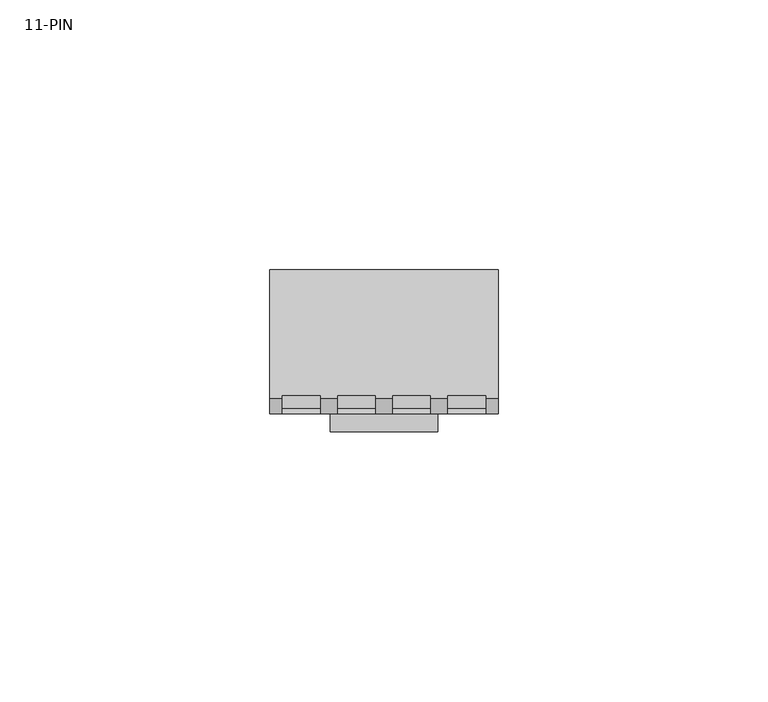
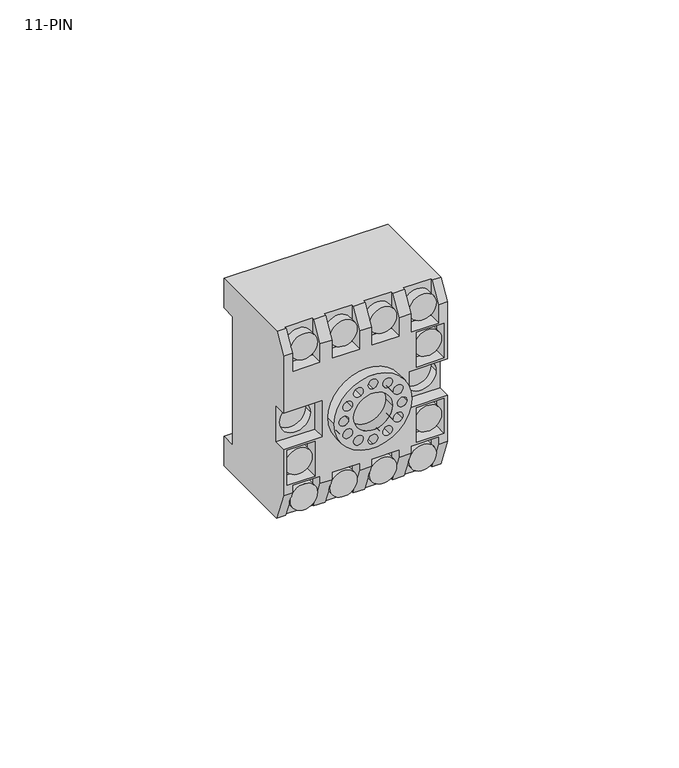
"""IFC4 building model written with IfcOpenShell, lengths in millimetres: proxy geometry, TDM_ЦОКОЛЬНЫЙ РАЗЪЕМ Р11Ц : 11-PIN."""

from ifc_helpers import new_model, si_unit, point, frame, frame_2d, origin, origin_2d, place, context, project, spatial, polyline, circle_curve, trimmed, segment, composite_curve, outline, extrude, source, transform, mapped, element, save
from ifc_brep_helpers import plane_surface, revolved_surface, advanced_brep


def proxy_11_pin_c977f3df(model_context):
    return source(origin(), model_context, "Body", "SolidModel", [
        extrude(outline(composite_curve([segment(trimmed(circle_curve(frame_2d((20.5, 15.3224467)), 3.5), [point((20.5, 18.8224467))], [point((20.5, 11.8224467))], False, "CARTESIAN"), True, "CONTINUOUS"), segment(trimmed(circle_curve(frame_2d((20.5, 15.3224467)), 3.5), [point((20.5, 11.8224467))], [point((20.5, 18.8224467))], False, "CARTESIAN"), True, "CONTINUOUS")], self_intersect=False)), frame((0.0, -15.667737, 0.0), z_axis=(0.0, 1.0, 0.0), x_axis=(0.0, 0.0, 1.0)), (0.0, 0.0, 1.0), 2.4687478),
        extrude(outline(composite_curve([segment(trimmed(circle_curve(frame_2d((20.5, 5.094818)), 3.5), [point((20.5, 8.594818))], [point((20.5, 1.594818))], False, "CARTESIAN"), True, "CONTINUOUS"), segment(trimmed(circle_curve(frame_2d((20.5, 5.094818)), 3.5), [point((20.5, 1.594818))], [point((20.5, 8.594818))], False, "CARTESIAN"), True, "CONTINUOUS")], self_intersect=False)), frame((0.0, -15.667737, 0.0), z_axis=(0.0, 1.0, 0.0), x_axis=(0.0, 0.0, 1.0)), (0.0, 0.0, 1.0), 2.4687478),
        extrude(outline(composite_curve([segment(trimmed(circle_curve(frame_2d((20.5, -15.3224467)), 3.5), [point((20.5, -18.8224467))], [point((20.5, -11.8224467))], False, "CARTESIAN"), True, "CONTINUOUS"), segment(trimmed(circle_curve(frame_2d((20.5, -15.3224467)), 3.5), [point((20.5, -11.8224467))], [point((20.5, -18.8224467))], False, "CARTESIAN"), True, "CONTINUOUS")], self_intersect=False)), frame((0.0, -15.667737, 0.0), z_axis=(0.0, 1.0, 0.0), x_axis=(0.0, 0.0, 1.0)), (0.0, 0.0, 1.0), 2.4687478),
        extrude(outline(composite_curve([segment(trimmed(circle_curve(frame_2d((20.5, -5.094818)), 3.5), [point((20.5, -8.594818))], [point((20.5, -1.594818))], False, "CARTESIAN"), True, "CONTINUOUS"), segment(trimmed(circle_curve(frame_2d((20.5, -5.094818)), 3.5), [point((20.5, -1.594818))], [point((20.5, -8.594818))], False, "CARTESIAN"), True, "CONTINUOUS")], self_intersect=False)), frame((0.0, -15.667737, 0.0), z_axis=(0.0, 1.0, 0.0), x_axis=(0.0, 0.0, 1.0)), (0.0, 0.0, 1.0), 2.4687478),
        extrude(outline(composite_curve([segment(trimmed(circle_curve(frame_2d((-20.5, 15.3224467)), 3.5), [point((-20.5, 18.8224467))], [point((-20.5, 11.8224467))], False, "CARTESIAN"), True, "CONTINUOUS"), segment(trimmed(circle_curve(frame_2d((-20.5, 15.3224467)), 3.5), [point((-20.5, 11.8224467))], [point((-20.5, 18.8224467))], False, "CARTESIAN"), True, "CONTINUOUS")], self_intersect=False)), frame((0.0, -15.667737, 0.0), z_axis=(0.0, 1.0, 0.0), x_axis=(0.0, 0.0, 1.0)), (0.0, 0.0, 1.0), 2.4687478),
        extrude(outline(composite_curve([segment(trimmed(circle_curve(frame_2d((-20.5, 5.094818)), 3.5), [point((-20.5, 8.594818))], [point((-20.5, 1.594818))], False, "CARTESIAN"), True, "CONTINUOUS"), segment(trimmed(circle_curve(frame_2d((-20.5, 5.094818)), 3.5), [point((-20.5, 1.594818))], [point((-20.5, 8.594818))], False, "CARTESIAN"), True, "CONTINUOUS")], self_intersect=False)), frame((0.0, -15.667737, 0.0), z_axis=(0.0, 1.0, 0.0), x_axis=(0.0, 0.0, 1.0)), (0.0, 0.0, 1.0), 2.4687478),
        extrude(outline(composite_curve([segment(trimmed(circle_curve(frame_2d((-20.5, -15.3224467)), 3.5), [point((-20.5, -18.8224467))], [point((-20.5, -11.8224467))], False, "CARTESIAN"), True, "CONTINUOUS"), segment(trimmed(circle_curve(frame_2d((-20.5, -15.3224467)), 3.5), [point((-20.5, -11.8224467))], [point((-20.5, -18.8224467))], False, "CARTESIAN"), True, "CONTINUOUS")], self_intersect=False)), frame((0.0, -15.667737, 0.0), z_axis=(0.0, 1.0, 0.0), x_axis=(0.0, 0.0, 1.0)), (0.0, 0.0, 1.0), 2.4687478),
        extrude(outline(composite_curve([segment(trimmed(circle_curve(frame_2d((-20.5, -5.094818)), 3.5), [point((-20.5, -8.594818))], [point((-20.5, -1.594818))], False, "CARTESIAN"), True, "CONTINUOUS"), segment(trimmed(circle_curve(frame_2d((-20.5, -5.094818)), 3.5), [point((-20.5, -1.594818))], [point((-20.5, -8.594818))], False, "CARTESIAN"), True, "CONTINUOUS")], self_intersect=False)), frame((0.0, -15.667737, 0.0), z_axis=(0.0, 1.0, 0.0), x_axis=(0.0, 0.0, 1.0)), (0.0, 0.0, 1.0), 2.4687478),
        extrude(outline(composite_curve([segment(trimmed(circle_curve(frame_2d((-10.2918299, 16.6749858)), 3.5), [point((-10.2918299, 20.1749858))], [point((-10.2918299, 13.1749858))], False, "CARTESIAN"), True, "CONTINUOUS"), segment(trimmed(circle_curve(frame_2d((-10.2918299, 16.6749858)), 3.5), [point((-10.2918299, 13.1749858))], [point((-10.2918299, 20.1749858))], False, "CARTESIAN"), True, "CONTINUOUS")], self_intersect=False)), frame((0.0, -15.667737, 0.0), z_axis=(0.0, 1.0, 0.0), x_axis=(0.0, 0.0, 1.0)), (0.0, 0.0, 1.0), 2.4687478),
        extrude(outline(composite_curve([segment(trimmed(circle_curve(frame_2d((-10.2918299, -16.6749858)), 3.5), [point((-10.2918299, -20.1749858))], [point((-10.2918299, -13.1749858))], False, "CARTESIAN"), True, "CONTINUOUS"), segment(trimmed(circle_curve(frame_2d((-10.2918299, -16.6749858)), 3.5), [point((-10.2918299, -13.1749858))], [point((-10.2918299, -20.1749858))], False, "CARTESIAN"), True, "CONTINUOUS")], self_intersect=False)), frame((0.0, -15.667737, 0.0), z_axis=(0.0, 1.0, 0.0), x_axis=(0.0, 0.0, 1.0)), (0.0, 0.0, 1.0), 2.4687478),
        extrude(outline(composite_curve([segment(trimmed(circle_curve(frame_2d((10.2918299, 16.6749858)), 3.5), [point((10.2918299, 20.1749858))], [point((10.2918299, 13.1749858))], False, "CARTESIAN"), True, "CONTINUOUS"), segment(trimmed(circle_curve(frame_2d((10.2918299, 16.6749858)), 3.5), [point((10.2918299, 13.1749858))], [point((10.2918299, 20.1749858))], False, "CARTESIAN"), True, "CONTINUOUS")], self_intersect=False)), frame((0.0, -15.667737, 0.0), z_axis=(0.0, 1.0, 0.0), x_axis=(0.0, 0.0, 1.0)), (0.0, 0.0, 1.0), 2.4687478),
        extrude(outline(polyline([(-27.7075426, -6.7924574), (-27.7075426, -2.3822129), (-28.6834872, -1.4062683), (-28.6834872, 1.4062683), (-27.7075426, 2.3822129), (-27.7075426, 6.7924574), (-25.5, 9.0), (-25.5, 3.0021543), (-26.7640895, 1.7380648), (-26.7640895, -1.4251506), (-25.5, -2.6892401), (-25.5, -9.0), (-27.7075426, -6.7924574)])), frame((0.0, 6.0, 0.0), z_axis=(0.0, 1.0, 0.0), x_axis=(0.0, 0.0, 1.0)), (0.0, 0.0, 1.0), 4.0),
        advanced_brep(
        [(21.15, -13.8132487, 25.5), (21.15, -16.7, 20.5), (21.15, -16.7, 5.0), (21.15, -13.1989892, 5.0), (21.15, -13.1989892, -5.0), (21.15, -16.7, -5.0), (21.15, -16.7, -17.5), (21.15, -13.6290877, -25.5), (21.15, 10.0, -25.5), (21.15, 10.0, -17.5), (21.15, 6.0, -17.5), (21.15, 6.0, 17.5), (21.15, 10.0, 17.5), (21.15, 10.0, 25.5), (-21.15, -13.8132487, 25.5), (-21.15, 10.0, 25.5), (-21.15, 10.0, 17.5), (-21.15, 6.0, 17.5), (-21.15, 6.0, -17.5), (-21.15, 10.0, -17.5), (-21.15, 10.0, -25.5), (-21.15, -13.6290877, -25.5), (-21.15, -16.7, -17.5), (-21.15, -16.7, -5.0), (-21.15, -13.1989892, -5.0), (-21.15, -13.1989892, 5.0), (-21.15, -16.7, 5.0), (-21.15, -16.7, 20.5), (11.15, -16.7, -5.0), (11.15, -16.7, 5.0), (18.9, -16.7, 20.5), (18.9, -16.7, 15.5), (11.7, -16.7, 15.5), (11.7, -16.7, 20.5), (8.7, -16.7, 20.5), (8.7, -16.7, 15.5), (1.5, -16.7, 15.5), (1.5, -16.7, 20.5), (-1.5, -16.7, 20.5), (-1.5, -16.7, 15.5), (-8.7, -16.7, 15.5), (-8.7, -16.7, 20.5), (-11.7, -16.7, 20.5), (-11.7, -16.7, 15.5), (-18.9, -16.7, 15.5), (-18.9, -16.7, 20.5), (-11.15, -16.7, 5.0), (-11.15, -16.7, -5.0), (-18.9, -16.7, -17.5), (-18.9, -16.7, -15.5), (-11.7, -16.7, -15.5), (-11.7, -16.7, -17.5), (-8.7, -16.7, -17.5), (-8.7, -16.7, -15.5), (-1.5, -16.7, -15.5), (-1.5, -16.7, -17.5), (1.5, -16.7, -17.5), (1.5, -16.7, -15.5), (8.7, -16.7, -15.5), (8.7, -16.7, -17.5), (11.7, -16.7, -17.5), (11.7, -16.7, -15.5), (18.9, -16.7, -15.5), (18.9, -16.7, -17.5), (20.2531108, -16.7, -5.5), (20.2531108, -16.7, -15.0), (13.0531108, -16.7, -15.0), (13.0531108, -16.7, -5.5), (-13.0531108, -16.7, -15.0), (-20.2531108, -16.7, -15.0), (-20.2531108, -16.7, -5.5), (-13.0531108, -16.7, -5.5), (13.0531108, -16.7, 15.0), (20.2531108, -16.7, 15.0), (20.2531108, -16.7, 5.5), (13.0531108, -16.7, 5.5), (18.9, -13.6290877, -25.5), (18.9, -13.1989892, -25.5), (11.7, -13.1989892, -25.5), (11.7, -13.6290877, -25.5), (8.7, -13.6290877, -25.5), (8.7, -13.1989892, -25.5), (1.5, -13.1989892, -25.5), (1.5, -13.6290877, -25.5), (-1.5, -13.6290877, -25.5), (-1.5, -13.1989892, -25.5), (-8.7, -13.1989892, -25.5), (-8.7, -13.6290877, -25.5), (-11.7, -13.6290877, -25.5), (-11.7, -13.1989892, -25.5), (-18.9, -13.1989892, -25.5), (-18.9, -13.6290877, -25.5), (-18.9, -13.8132487, 25.5), (-18.9, -13.1989892, 25.5), (-11.7, -13.1989892, 25.5), (-11.7, -13.8132487, 25.5), (-8.7, -13.8132487, 25.5), (-8.7, -13.1989892, 25.5), (-1.5, -13.1989892, 25.5), (-1.5, -13.8132487, 25.5), (1.5, -13.8132487, 25.5), (1.5, -13.1989892, 25.5), (8.7, -13.1989892, 25.5), (8.7, -13.8132487, 25.5), (11.7, -13.8132487, 25.5), (11.7, -13.1989892, 25.5), (18.9, -13.1989892, 25.5), (18.9, -13.8132487, 25.5), (11.15, -13.1989892, 5.0), (11.15, -13.1989892, -5.0), (12.1875, -13.1989892, 0.0), (20.1875, -13.1989892, 0.0), (-11.15, -13.1989892, 5.0), (-11.15, -13.1989892, -5.0), (-12.1875, -13.1989892, 0.0), (-20.1875, -13.1989892, 0.0), (-8.7, -13.1989892, 15.5), (-1.5, -13.1989892, 15.5), (-18.9, -13.1989892, 15.5), (-11.7, -13.1989892, 15.5), (1.5, -13.1989892, 15.5), (8.7, -13.1989892, 15.5), (11.7, -13.1989892, 15.5), (18.9, -13.1989892, 15.5), (-1.5, -13.1989892, -15.5), (-8.7, -13.1989892, -15.5), (-11.7, -13.1989892, -15.5), (-18.9, -13.1989892, -15.5), (8.7, -13.1989892, -15.5), (1.5, -13.1989892, -15.5), (18.9, -13.1989892, -15.5), (11.7, -13.1989892, -15.5), (20.2531108, -13.1989892, -15.0), (20.2531108, -13.1989892, -5.5), (13.0531108, -13.1989892, -5.5), (13.0531108, -13.1989892, -15.0), (-20.2531108, -13.1989892, -15.0), (-13.0531108, -13.1989892, -15.0), (-13.0531108, -13.1989892, -5.5), (-20.2531108, -13.1989892, -5.5), (20.2531108, -13.1989892, 15.0), (13.0531108, -13.1989892, 15.0), (13.0531108, -13.1989892, 5.5), (20.2531108, -13.1989892, 5.5), (-20.1875, -10.9480722, 0.0), (-12.1875, -10.9480722, 0.0), (20.1875, -10.9480722, 0.0), (12.1875, -10.9480722, 0.0)],
        [
            (0, 1),
            (1, 2),
            (2, 3),
            (3, 4),
            (4, 5),
            (5, 6),
            (6, 7),
            (7, 8),
            (8, 9),
            (9, 10),
            (10, 11),
            (11, 12),
            (12, 13),
            (13, 0),
            (14, 15),
            (15, 16),
            (16, 17),
            (17, 18),
            (18, 19),
            (19, 20),
            (20, 21),
            (21, 22),
            (22, 23),
            (23, 24),
            (24, 25),
            (25, 26),
            (26, 27),
            (27, 14),
            (5, 28),
            (28, 29),
            (29, 2),
            (1, 30),
            (30, 31),
            (31, 32),
            (32, 33),
            (33, 34),
            (34, 35),
            (35, 36),
            (36, 37),
            (37, 38),
            (38, 39),
            (39, 40),
            (40, 41),
            (41, 42),
            (42, 43),
            (43, 44),
            (44, 45),
            (45, 27),
            (26, 46),
            (46, 47),
            (47, 23),
            (22, 48),
            (48, 49),
            (49, 50),
            (50, 51),
            (51, 52),
            (52, 53),
            (53, 54),
            (54, 55),
            (55, 56),
            (56, 57),
            (57, 58),
            (58, 59),
            (59, 60),
            (60, 61),
            (61, 62),
            (62, 63),
            (63, 6),
            (64, 65),
            (65, 66),
            (66, 67),
            (67, 64),
            (68, 69),
            (69, 70),
            (70, 71),
            (71, 68),
            (72, 73),
            (73, 74),
            (74, 75),
            (75, 72),
            (7, 76),
            (76, 77),
            (77, 78),
            (78, 79),
            (79, 80),
            (80, 81),
            (81, 82),
            (82, 83),
            (83, 84),
            (84, 85),
            (85, 86),
            (86, 87),
            (87, 88),
            (88, 89),
            (89, 90),
            (90, 91),
            (91, 21),
            (20, 8),
            (19, 9),
            (18, 10),
            (17, 11),
            (16, 12),
            (15, 13),
            (14, 92),
            (92, 93),
            (93, 94),
            (94, 95),
            (95, 96),
            (96, 97),
            (97, 98),
            (98, 99),
            (99, 100),
            (100, 101),
            (101, 102),
            (102, 103),
            (103, 104),
            (104, 105),
            (105, 106),
            (106, 107),
            (107, 0),
            (107, 30),
            (45, 92),
            (33, 104),
            (103, 34),
            (37, 100),
            (99, 38),
            (41, 96),
            (95, 42),
            (63, 76),
            (91, 48),
            (79, 60),
            (59, 80),
            (83, 56),
            (55, 84),
            (87, 52),
            (51, 88),
            (108, 109),
            (109, 4),
            (3, 108),
            (110, 111, circle_curve(frame((16.1875, -13.1989892, 0.0), z_axis=(0.0, 1.0, 0.0), x_axis=(-1.0, 0.0, 0.0)), 4.0)),
            (111, 110, circle_curve(frame((16.1875, -13.1989892, 0.0), z_axis=(0.0, 1.0, 0.0), x_axis=(-1.0, 0.0, 0.0)), 4.0)),
            (112, 25),
            (24, 113),
            (113, 112),
            (114, 115, circle_curve(frame((-16.1875, -13.1989892, 0.0), z_axis=(0.0, 1.0, 0.0), x_axis=(1.0, 0.0, 0.0)), 4.0)),
            (115, 114, circle_curve(frame((-16.1875, -13.1989892, 0.0), z_axis=(0.0, 1.0, 0.0), x_axis=(1.0, 0.0, 0.0)), 4.0)),
            (97, 116),
            (116, 117),
            (117, 98),
            (93, 118),
            (118, 119),
            (119, 94),
            (101, 120),
            (120, 121),
            (121, 102),
            (105, 122),
            (122, 123),
            (123, 106),
            (85, 124),
            (124, 125),
            (125, 86),
            (89, 126),
            (126, 127),
            (127, 90),
            (81, 128),
            (128, 129),
            (129, 82),
            (77, 130),
            (130, 131),
            (131, 78),
            (132, 133),
            (133, 134),
            (134, 135),
            (135, 132),
            (136, 137),
            (137, 138),
            (138, 139),
            (139, 136),
            (140, 141),
            (141, 142),
            (142, 143),
            (143, 140),
            (108, 29),
            (28, 109),
            (112, 46),
            (47, 113),
            (40, 116),
            (39, 117),
            (44, 118),
            (43, 119),
            (36, 120),
            (35, 121),
            (32, 122),
            (31, 123),
            (54, 124),
            (53, 125),
            (50, 126),
            (49, 127),
            (58, 128),
            (57, 129),
            (62, 130),
            (61, 131),
            (132, 65),
            (64, 133),
            (67, 134),
            (66, 135),
            (136, 69),
            (68, 137),
            (71, 138),
            (70, 139),
            (140, 73),
            (72, 141),
            (75, 142),
            (74, 143),
            (144, 145, circle_curve(frame((-16.1875, -10.9480722, 0.0), z_axis=(0.0, -1.0, 0.0), x_axis=(1.0, 0.0, 0.0)), 4.0)),
            (145, 144, circle_curve(frame((-16.1875, -10.9480722, 0.0), z_axis=(0.0, -1.0, 0.0), x_axis=(1.0, 0.0, 0.0)), 4.0)),
            (146, 147, circle_curve(frame((16.1875, -10.9480722, 0.0), z_axis=(0.0, -1.0, 0.0), x_axis=(-1.0, 0.0, 0.0)), 4.0)),
            (147, 146, circle_curve(frame((16.1875, -10.9480722, 0.0), z_axis=(0.0, -1.0, 0.0), x_axis=(-1.0, 0.0, 0.0)), 4.0)),
            (144, 115),
            (114, 145),
            (146, 111),
            (110, 147),
        ],
        [
            plane_surface(frame((21.15, -16.7, 20.5), z_axis=(1.0000000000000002, 0.0, 0.0), x_axis=(0.0, -0.5000000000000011, -0.8660254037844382))),
            plane_surface(frame((-21.15, -16.7, 20.5), z_axis=(-1.0000000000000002, 0.0, 0.0), x_axis=(0.0, 0.5000000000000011, 0.8660254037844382))),
            plane_surface(frame((21.15, -16.7, 20.5), z_axis=(0.0, -1.0, 0.0), x_axis=(-1.0, 0.0, 0.0))),
            plane_surface(frame((21.15, -13.6290877, -25.5), z_axis=(0.0, 0.0, -1.0), x_axis=(-1.0, 0.0, 0.0))),
            plane_surface(frame((21.15, 10.0, -25.5), z_axis=(0.0, 1.0, 0.0), x_axis=(-1.0, 0.0, 0.0))),
            plane_surface(frame((21.15, 10.0, -17.5), z_axis=(0.0, 0.0, 1.0), x_axis=(-1.0, 0.0, 0.0))),
            plane_surface(frame((21.15, 6.0, -17.5), z_axis=(0.0, 1.0, 0.0), x_axis=(-1.0, 0.0, 0.0))),
            plane_surface(frame((21.15, 6.0, 17.5), z_axis=(0.0, 0.0, -1.0), x_axis=(-1.0, 0.0, 0.0))),
            plane_surface(frame((21.15, 10.0, 17.5), z_axis=(0.0, 1.0, 0.0), x_axis=(-1.0, 0.0, 0.0))),
            plane_surface(frame((21.15, 10.0, 25.5), z_axis=(0.0, 0.0, 1.0), x_axis=(-1.0, 0.0, 0.0))),
            plane_surface(frame((21.15, -13.8132487, 25.5), z_axis=(0.0, -0.8660254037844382, 0.5000000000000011), x_axis=(-1.0, 0.0, 0.0))),
            plane_surface(frame((21.15, -16.7, -17.5), z_axis=(0.0, -0.9335804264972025, -0.35836794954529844), x_axis=(-1.0, 0.0, 0.0))),
            plane_surface(frame((11.15, -13.1989892, 5.742795), z_axis=(0.0, -1.0, 0.0), x_axis=(0.0, 0.0, 1.0))),
            plane_surface(frame((11.15, -22.1900296, 5.0), z_axis=(1.0, 0.0, 0.0), x_axis=(0.0, 1.0, 0.0))),
            plane_surface(frame((11.15, -22.1900296, -5.0), z_axis=(0.0, 0.0, 1.0), x_axis=(0.0, 1.0, 0.0))),
            plane_surface(frame((21.15, -22.1900296, 5.0), z_axis=(0.0, 0.0, -1.0), x_axis=(0.0, 1.0, 0.0))),
            plane_surface(frame((-11.15, -22.1900296, 5.0), z_axis=(0.0, 0.0, -1.0), x_axis=(0.0, 1.0, 0.0))),
            plane_surface(frame((-21.15, -22.1900296, -5.0), z_axis=(0.0, 0.0, 1.0), x_axis=(0.0, 1.0, 0.0))),
            plane_surface(frame((-11.15, -22.1900296, -5.0), z_axis=(-1.0, 0.0, 0.0), x_axis=(0.0, 1.0, 0.0))),
            plane_surface(frame((-8.7, -22.1900296, 25.5), z_axis=(1.0, 0.0, 0.0), x_axis=(0.0, 1.0, 0.0))),
            plane_surface(frame((-8.7, -22.1900296, 15.5), z_axis=(0.0, 0.0, 1.0), x_axis=(0.0, 1.0, 0.0))),
            plane_surface(frame((-1.5, -22.1900296, 15.5), z_axis=(-1.0, 0.0, 0.0), x_axis=(0.0, 1.0, 0.0))),
            plane_surface(frame((-18.9, -22.1900296, 25.5), z_axis=(1.0, 0.0, 0.0), x_axis=(0.0, 1.0, 0.0))),
            plane_surface(frame((-18.9, -22.1900296, 15.5), z_axis=(0.0, 0.0, 1.0), x_axis=(0.0, 1.0, 0.0))),
            plane_surface(frame((-11.7, -22.1900296, 15.5), z_axis=(-1.0, 0.0, 0.0), x_axis=(0.0, 1.0, 0.0))),
            plane_surface(frame((1.5, -22.1900296, 25.5), z_axis=(1.0, 0.0, 0.0), x_axis=(0.0, 1.0, 0.0))),
            plane_surface(frame((1.5, -22.1900296, 15.5), z_axis=(0.0, 0.0, 1.0), x_axis=(0.0, 1.0, 0.0))),
            plane_surface(frame((8.7, -22.1900296, 15.5), z_axis=(-1.0, 0.0, 0.0), x_axis=(0.0, 1.0, 0.0))),
            plane_surface(frame((11.7, -22.1900296, 25.5), z_axis=(1.0, 0.0, 0.0), x_axis=(0.0, 1.0, 0.0))),
            plane_surface(frame((11.7, -22.1900296, 15.5), z_axis=(0.0, 0.0, 1.0), x_axis=(0.0, 1.0, 0.0))),
            plane_surface(frame((18.9, -22.1900296, 15.5), z_axis=(-1.0, 0.0, 0.0), x_axis=(0.0, 1.0, 0.0))),
            plane_surface(frame((-1.5, -22.1900296, -25.5), z_axis=(-1.0, 0.0, 0.0), x_axis=(0.0, 1.0, 0.0))),
            plane_surface(frame((-1.5, -22.1900296, -15.5), z_axis=(0.0, 0.0, -1.0), x_axis=(0.0, 1.0, 0.0))),
            plane_surface(frame((-8.7, -22.1900296, -15.5), z_axis=(1.0, 0.0, 0.0), x_axis=(0.0, 1.0, 0.0))),
            plane_surface(frame((-11.7, -22.1900296, -25.5), z_axis=(-1.0, 0.0, 0.0), x_axis=(0.0, 1.0, 0.0))),
            plane_surface(frame((-11.7, -22.1900296, -15.5), z_axis=(0.0, 0.0, -1.0), x_axis=(0.0, 1.0, 0.0))),
            plane_surface(frame((-18.9, -22.1900296, -15.5), z_axis=(1.0, 0.0, 0.0), x_axis=(0.0, 1.0, 0.0))),
            plane_surface(frame((8.7, -22.1900296, -25.5), z_axis=(-1.0, 0.0, 0.0), x_axis=(0.0, 1.0, 0.0))),
            plane_surface(frame((8.7, -22.1900296, -15.5), z_axis=(0.0, 0.0, -1.0), x_axis=(0.0, 1.0, 0.0))),
            plane_surface(frame((1.5, -22.1900296, -15.5), z_axis=(1.0, 0.0, 0.0), x_axis=(0.0, 1.0, 0.0))),
            plane_surface(frame((18.9, -22.1900296, -25.5), z_axis=(-1.0, 0.0, 0.0), x_axis=(0.0, 1.0, 0.0))),
            plane_surface(frame((18.9, -22.1900296, -15.5), z_axis=(0.0, 0.0, -1.0), x_axis=(0.0, 1.0, 0.0))),
            plane_surface(frame((11.7, -22.1900296, -15.5), z_axis=(1.0, 0.0, 0.0), x_axis=(0.0, 1.0, 0.0))),
            plane_surface(frame((20.2531108, -22.1900296, -15.0), z_axis=(-1.0, 0.0, 0.0), x_axis=(0.0, 1.0, 0.0))),
            plane_surface(frame((20.2531108, -22.1900296, -5.5), z_axis=(0.0, 0.0, -1.0), x_axis=(0.0, 1.0, 0.0))),
            plane_surface(frame((13.0531108, -22.1900296, -5.5), z_axis=(1.0, 0.0, 0.0), x_axis=(0.0, 1.0, 0.0))),
            plane_surface(frame((13.0531108, -22.1900296, -15.0), z_axis=(0.0, 0.0, 1.0), x_axis=(0.0, 1.0, 0.0))),
            plane_surface(frame((-20.2531108, -22.1900296, -15.0), z_axis=(0.0, 0.0, 1.0), x_axis=(0.0, 1.0, 0.0))),
            plane_surface(frame((-13.0531108, -22.1900296, -15.0), z_axis=(-1.0, 0.0, 0.0), x_axis=(0.0, 1.0, 0.0))),
            plane_surface(frame((-13.0531108, -22.1900296, -5.5), z_axis=(0.0, 0.0, -1.0), x_axis=(0.0, 1.0, 0.0))),
            plane_surface(frame((-20.2531108, -22.1900296, -5.5), z_axis=(1.0, 0.0, 0.0), x_axis=(0.0, 1.0, 0.0))),
            plane_surface(frame((20.2531108, -22.1900296, 15.0), z_axis=(0.0, 0.0, -1.0), x_axis=(0.0, 1.0, 0.0))),
            plane_surface(frame((13.0531108, -22.1900296, 15.0), z_axis=(1.0, 0.0, 0.0), x_axis=(0.0, 1.0, 0.0))),
            plane_surface(frame((13.0531108, -22.1900296, 5.5), z_axis=(0.0, 0.0, 1.0), x_axis=(0.0, 1.0, 0.0))),
            plane_surface(frame((20.2531108, -22.1900296, 5.5), z_axis=(-1.0, 0.0, 0.0), x_axis=(0.0, 1.0, 0.0))),
            plane_surface(frame((-12.1875, -10.9480722, 0.0), z_axis=(0.0, -1.0, 0.0), x_axis=(0.0, 0.0, -1.0))),
            revolved_surface(polyline([(-12.1875, -13.1989892, 0.0), (-12.1875, -10.9480722, 0.0)]), (-16.1875, -10.9480722, 0.0), (0.0, -1.0, 0.0)),
            revolved_surface(polyline([(12.1875, -13.1989892, 0.0), (12.1875, -10.9480722, 0.0)]), (16.1875, 0.0, 0.0), (0.0, -1.0, 0.0)),
        ],
        [
            (0, [[1, 2, 3, 4, 5, 6, 7, 8, 9, 10, 11, 12, 13, 14]]),
            (1, [[15, 16, 17, 18, 19, 20, 21, 22, 23, 24, 25, 26, 27, 28]]),
            (2, [[-6, 29, 30, 31, -2, 32, 33, 34, 35, 36, 37, 38, 39, 40, 41, 42, 43, 44, 45, 46, 47, 48, -27, 49, 50, 51, -23, 52, 53, 54, 55, 56, 57, 58, 59, 60, 61, 62, 63, 64, 65, 66, 67, 68], [69, 70, 71, 72], [73, 74, 75, 76], [77, 78, 79, 80]]),
            (3, [[-8, 81, 82, 83, 84, 85, 86, 87, 88, 89, 90, 91, 92, 93, 94, 95, 96, 97, -21, 98]]),
            (4, [[-9, -98, -20, 99]]),
            (5, [[-10, -99, -19, 100]]),
            (6, [[-11, -100, -18, 101]]),
            (7, [[-12, -101, -17, 102]]),
            (8, [[-13, -102, -16, 103]]),
            (9, [[-14, -103, -15, 104, 105, 106, 107, 108, 109, 110, 111, 112, 113, 114, 115, 116, 117, 118, 119, 120]]),
            (10, [[-1, -120, 121, -32]]),
            (10, [[-28, -48, 122, -104]]),
            (10, [[-36, 123, -116, 124]]),
            (10, [[-40, 125, -112, 126]]),
            (10, [[-44, 127, -108, 128]]),
            (11, [[-7, -68, 129, -81]]),
            (11, [[-22, -97, 130, -52]]),
            (11, [[-85, 131, -64, 132]]),
            (11, [[-89, 133, -60, 134]]),
            (11, [[-93, 135, -56, 136]]),
            (12, [[137, 138, -4, 139], [140, 141]]),
            (12, [[142, -25, 143, 144], [145, 146]]),
            (12, [[147, 148, 149, -110]]),
            (12, [[150, 151, 152, -106]]),
            (12, [[153, 154, 155, -114]]),
            (12, [[156, 157, 158, -118]]),
            (12, [[159, 160, 161, -91]]),
            (12, [[162, 163, 164, -95]]),
            (12, [[165, 166, 167, -87]]),
            (12, [[168, 169, 170, -83]]),
            (12, [[171, 172, 173, 174]]),
            (12, [[175, 176, 177, 178]]),
            (12, [[179, 180, 181, 182]]),
            (13, [[-137, 183, -30, 184]]),
            (14, [[-138, -184, -29, -5]]),
            (15, [[-139, -3, -31, -183]]),
            (16, [[-142, 185, -49, -26]]),
            (17, [[-143, -24, -51, 186]]),
            (18, [[-144, -186, -50, -185]]),
            (19, [[-147, -109, -127, -43, 187]]),
            (20, [[-148, -187, -42, 188]]),
            (21, [[-149, -188, -41, -126, -111]]),
            (22, [[-150, -105, -122, -47, 189]]),
            (23, [[-151, -189, -46, 190]]),
            (24, [[-152, -190, -45, -128, -107]]),
            (25, [[-153, -113, -125, -39, 191]]),
            (26, [[-154, -191, -38, 192]]),
            (27, [[-155, -192, -37, -124, -115]]),
            (28, [[-156, -117, -123, -35, 193]]),
            (29, [[-157, -193, -34, 194]]),
            (30, [[-158, -194, -33, -121, -119]]),
            (31, [[-159, -90, -134, -59, 195]]),
            (32, [[-160, -195, -58, 196]]),
            (33, [[-161, -196, -57, -135, -92]]),
            (34, [[-162, -94, -136, -55, 197]]),
            (35, [[-163, -197, -54, 198]]),
            (36, [[-164, -198, -53, -130, -96]]),
            (37, [[-165, -86, -132, -63, 199]]),
            (38, [[-166, -199, -62, 200]]),
            (39, [[-167, -200, -61, -133, -88]]),
            (40, [[-168, -82, -129, -67, 201]]),
            (41, [[-169, -201, -66, 202]]),
            (42, [[-170, -202, -65, -131, -84]]),
            (43, [[-171, 203, -69, 204]]),
            (44, [[-172, -204, -72, 205]]),
            (45, [[-173, -205, -71, 206]]),
            (46, [[-174, -206, -70, -203]]),
            (47, [[-175, 207, -73, 208]]),
            (48, [[-176, -208, -76, 209]]),
            (49, [[-177, -209, -75, 210]]),
            (50, [[-178, -210, -74, -207]]),
            (51, [[-179, 211, -77, 212]]),
            (52, [[-180, -212, -80, 213]]),
            (53, [[-181, -213, -79, 214]]),
            (54, [[-182, -214, -78, -211]]),
            (55, [[215, 216]]),
            (55, [[217, 218]]),
            (56, [[-215, 219, -145, 220]]),
            (56, [[-216, -220, -146, -219]]),
            (57, [[-217, 221, -140, 222]]),
            (57, [[-218, -222, -141, -221]]),
        ],
    ),
        extrude(outline(composite_curve([segment(trimmed(circle_curve(frame_2d((7.3252662, 0.0)), 2.3252662), [point((7.3252662, -2.3252662))], [point((7.3252662, 2.3252662))], False, "CARTESIAN"), True, "CONTINUOUS"), segment(trimmed(circle_curve(frame_2d((7.3252662, 0.0)), 2.3252662), [point((7.3252662, 2.3252662))], [point((7.3252662, -2.3252662))], False, "CARTESIAN"), True, "CONTINUOUS")], self_intersect=False)), frame((0.0, 6.0, 0.0), z_axis=(0.0, 1.0, 0.0), x_axis=(0.0, 0.0, 1.0)), (0.0, 0.0, 1.0), 4.0),
        extrude(outline(composite_curve([segment(trimmed(circle_curve(frame_2d((-7.3252662, 0.0)), 2.3252662), [point((-7.3252662, -2.3252662))], [point((-7.3252662, 2.3252662))], False, "CARTESIAN"), True, "CONTINUOUS"), segment(trimmed(circle_curve(frame_2d((-7.3252662, 0.0)), 2.3252662), [point((-7.3252662, 2.3252662))], [point((-7.3252662, -2.3252662))], False, "CARTESIAN"), True, "CONTINUOUS")], self_intersect=False)), frame((0.0, 6.0, 0.0), z_axis=(0.0, 1.0, 0.0), x_axis=(0.0, 0.0, 1.0)), (0.0, 0.0, 1.0), 4.0),
        extrude(outline(composite_curve([segment(trimmed(circle_curve(origin_2d(), 10.0), [point((0.0, -10.0))], [point((0.0, 10.0))], False, "CARTESIAN"), True, "CONTINUOUS"), segment(trimmed(circle_curve(origin_2d(), 10.0), [point((0.0, 10.0))], [point((0.0, -10.0))], False, "CARTESIAN"), True, "CONTINUOUS")], self_intersect=False), holes=[composite_curve([segment(trimmed(circle_curve(frame_2d((0.0, 7.5275386)), 1.25), [point((0.0, 6.2775386))], [point((0.0, 8.7775386))], True, "CARTESIAN"), True, "CONTINUOUS"), segment(trimmed(circle_curve(frame_2d((0.0, 7.5275386)), 1.25), [point((0.0, 8.7775386))], [point((0.0, 6.2775386))], True, "CARTESIAN"), True, "CONTINUOUS")], self_intersect=False), composite_curve([segment(trimmed(circle_curve(origin_2d(), 5.0), [point((0.0, -5.0))], [point((0.0, 5.0))], True, "CARTESIAN"), True, "CONTINUOUS"), segment(trimmed(circle_curve(origin_2d(), 5.0), [point((0.0, 5.0))], [point((0.0, -5.0))], True, "CARTESIAN"), True, "CONTINUOUS")], self_intersect=False), composite_curve([segment(trimmed(circle_curve(frame_2d((3.7637693, 6.5190397)), 1.25), [point((3.1387693, 5.4365079))], [point((4.3887693, 7.6015714))], True, "CARTESIAN"), True, "CONTINUOUS"), segment(trimmed(circle_curve(frame_2d((3.7637693, 6.5190397)), 1.25), [point((4.3887693, 7.6015714))], [point((3.1387693, 5.4365079))], True, "CARTESIAN"), True, "CONTINUOUS")], self_intersect=False), composite_curve([segment(trimmed(circle_curve(frame_2d((6.5190397, 3.7637693)), 1.25), [point((5.4365079, 3.1387693))], [point((7.6015714, 4.3887693))], True, "CARTESIAN"), True, "CONTINUOUS"), segment(trimmed(circle_curve(frame_2d((6.5190397, 3.7637693)), 1.25), [point((7.6015714, 4.3887693))], [point((5.4365079, 3.1387693))], True, "CARTESIAN"), True, "CONTINUOUS")], self_intersect=False), composite_curve([segment(trimmed(circle_curve(frame_2d((7.5275386, 0.0)), 1.25), [point((6.2775386, 0.0))], [point((8.7775386, 0.0))], True, "CARTESIAN"), True, "CONTINUOUS"), segment(trimmed(circle_curve(frame_2d((7.5275386, 0.0)), 1.25), [point((8.7775386, 0.0))], [point((6.2775386, 0.0))], True, "CARTESIAN"), True, "CONTINUOUS")], self_intersect=False), composite_curve([segment(trimmed(circle_curve(frame_2d((-3.7637693, 6.5190397)), 1.25), [point((-3.1387693, 5.4365079))], [point((-4.3887693, 7.6015714))], True, "CARTESIAN"), True, "CONTINUOUS"), segment(trimmed(circle_curve(frame_2d((-3.7637693, 6.5190397)), 1.25), [point((-4.3887693, 7.6015714))], [point((-3.1387693, 5.4365079))], True, "CARTESIAN"), True, "CONTINUOUS")], self_intersect=False), composite_curve([segment(trimmed(circle_curve(frame_2d((-6.5190397, 3.7637693)), 1.25), [point((-5.4365079, 3.1387693))], [point((-7.6015714, 4.3887693))], True, "CARTESIAN"), True, "CONTINUOUS"), segment(trimmed(circle_curve(frame_2d((-6.5190397, 3.7637693)), 1.25), [point((-7.6015714, 4.3887693))], [point((-5.4365079, 3.1387693))], True, "CARTESIAN"), True, "CONTINUOUS")], self_intersect=False), composite_curve([segment(trimmed(circle_curve(frame_2d((-7.5275386, 0.0)), 1.25), [point((-6.2775386, 0.0))], [point((-8.7775386, 0.0))], True, "CARTESIAN"), True, "CONTINUOUS"), segment(trimmed(circle_curve(frame_2d((-7.5275386, 0.0)), 1.25), [point((-8.7775386, 0.0))], [point((-6.2775386, 0.0))], True, "CARTESIAN"), True, "CONTINUOUS")], self_intersect=False), composite_curve([segment(trimmed(circle_curve(frame_2d((0.0, -7.5275386)), 1.25), [point((0.0, -6.2775386))], [point((0.0, -8.7775386))], True, "CARTESIAN"), True, "CONTINUOUS"), segment(trimmed(circle_curve(frame_2d((0.0, -7.5275386)), 1.25), [point((0.0, -8.7775386))], [point((0.0, -6.2775386))], True, "CARTESIAN"), True, "CONTINUOUS")], self_intersect=False), composite_curve([segment(trimmed(circle_curve(frame_2d((3.7637693, -6.5190397)), 1.25), [point((3.1387693, -5.4365079))], [point((4.3887693, -7.6015714))], True, "CARTESIAN"), True, "CONTINUOUS"), segment(trimmed(circle_curve(frame_2d((3.7637693, -6.5190397)), 1.25), [point((4.3887693, -7.6015714))], [point((3.1387693, -5.4365079))], True, "CARTESIAN"), True, "CONTINUOUS")], self_intersect=False), composite_curve([segment(trimmed(circle_curve(frame_2d((6.5190397, -3.7637693)), 1.25), [point((5.4365079, -3.1387693))], [point((7.6015714, -4.3887693))], True, "CARTESIAN"), True, "CONTINUOUS"), segment(trimmed(circle_curve(frame_2d((6.5190397, -3.7637693)), 1.25), [point((7.6015714, -4.3887693))], [point((5.4365079, -3.1387693))], True, "CARTESIAN"), True, "CONTINUOUS")], self_intersect=False), composite_curve([segment(trimmed(circle_curve(frame_2d((-3.7637693, -6.5190397)), 1.25), [point((-3.1387693, -5.4365079))], [point((-4.3887693, -7.6015714))], True, "CARTESIAN"), True, "CONTINUOUS"), segment(trimmed(circle_curve(frame_2d((-3.7637693, -6.5190397)), 1.25), [point((-4.3887693, -7.6015714))], [point((-3.1387693, -5.4365079))], True, "CARTESIAN"), True, "CONTINUOUS")], self_intersect=False), composite_curve([segment(trimmed(circle_curve(frame_2d((-6.5190397, -3.7637693)), 1.25), [point((-5.4365079, -3.1387693))], [point((-7.6015714, -4.3887693))], True, "CARTESIAN"), True, "CONTINUOUS"), segment(trimmed(circle_curve(frame_2d((-6.5190397, -3.7637693)), 1.25), [point((-7.6015714, -4.3887693))], [point((-5.4365079, -3.1387693))], True, "CARTESIAN"), True, "CONTINUOUS")], self_intersect=False)]), frame((0.0, -20.0, 0.0), z_axis=(0.0, 1.0, 0.0), x_axis=(0.0, 0.0, 1.0)), (0.0, 0.0, 1.0), 3.3),
        extrude(outline(composite_curve([segment(trimmed(circle_curve(frame_2d((20.5, 15.3224467)), 3.5), [point((20.5, 18.8224467))], [point((20.5, 11.8224467))], False, "CARTESIAN"), True, "CONTINUOUS"), segment(trimmed(circle_curve(frame_2d((20.5, 15.3224467)), 3.5), [point((20.5, 11.8224467))], [point((20.5, 18.8224467))], False, "CARTESIAN"), True, "CONTINUOUS")], self_intersect=False)), frame((0.0, -15.667737, 0.0), z_axis=(0.0, 1.0, 0.0), x_axis=(0.0, 0.0, 1.0)), (0.0, 0.0, 1.0), 2.4687478),
        extrude(outline(composite_curve([segment(trimmed(circle_curve(frame_2d((20.5, 5.094818)), 3.5), [point((20.5, 8.594818))], [point((20.5, 1.594818))], False, "CARTESIAN"), True, "CONTINUOUS"), segment(trimmed(circle_curve(frame_2d((20.5, 5.094818)), 3.5), [point((20.5, 1.594818))], [point((20.5, 8.594818))], False, "CARTESIAN"), True, "CONTINUOUS")], self_intersect=False)), frame((0.0, -15.667737, 0.0), z_axis=(0.0, 1.0, 0.0), x_axis=(0.0, 0.0, 1.0)), (0.0, 0.0, 1.0), 2.4687478),
        extrude(outline(composite_curve([segment(trimmed(circle_curve(frame_2d((20.5, -15.3224467)), 3.5), [point((20.5, -18.8224467))], [point((20.5, -11.8224467))], False, "CARTESIAN"), True, "CONTINUOUS"), segment(trimmed(circle_curve(frame_2d((20.5, -15.3224467)), 3.5), [point((20.5, -11.8224467))], [point((20.5, -18.8224467))], False, "CARTESIAN"), True, "CONTINUOUS")], self_intersect=False)), frame((0.0, -15.667737, 0.0), z_axis=(0.0, 1.0, 0.0), x_axis=(0.0, 0.0, 1.0)), (0.0, 0.0, 1.0), 2.4687478),
        extrude(outline(composite_curve([segment(trimmed(circle_curve(frame_2d((20.5, -5.094818)), 3.5), [point((20.5, -8.594818))], [point((20.5, -1.594818))], False, "CARTESIAN"), True, "CONTINUOUS"), segment(trimmed(circle_curve(frame_2d((20.5, -5.094818)), 3.5), [point((20.5, -1.594818))], [point((20.5, -8.594818))], False, "CARTESIAN"), True, "CONTINUOUS")], self_intersect=False)), frame((0.0, -15.667737, 0.0), z_axis=(0.0, 1.0, 0.0), x_axis=(0.0, 0.0, 1.0)), (0.0, 0.0, 1.0), 2.4687478),
        extrude(outline(composite_curve([segment(trimmed(circle_curve(frame_2d((-20.5, 15.3224467)), 3.5), [point((-20.5, 18.8224467))], [point((-20.5, 11.8224467))], False, "CARTESIAN"), True, "CONTINUOUS"), segment(trimmed(circle_curve(frame_2d((-20.5, 15.3224467)), 3.5), [point((-20.5, 11.8224467))], [point((-20.5, 18.8224467))], False, "CARTESIAN"), True, "CONTINUOUS")], self_intersect=False)), frame((0.0, -15.667737, 0.0), z_axis=(0.0, 1.0, 0.0), x_axis=(0.0, 0.0, 1.0)), (0.0, 0.0, 1.0), 2.4687478),
        extrude(outline(composite_curve([segment(trimmed(circle_curve(frame_2d((-20.5, 5.094818)), 3.5), [point((-20.5, 8.594818))], [point((-20.5, 1.594818))], False, "CARTESIAN"), True, "CONTINUOUS"), segment(trimmed(circle_curve(frame_2d((-20.5, 5.094818)), 3.5), [point((-20.5, 1.594818))], [point((-20.5, 8.594818))], False, "CARTESIAN"), True, "CONTINUOUS")], self_intersect=False)), frame((0.0, -15.667737, 0.0), z_axis=(0.0, 1.0, 0.0), x_axis=(0.0, 0.0, 1.0)), (0.0, 0.0, 1.0), 2.4687478),
        extrude(outline(composite_curve([segment(trimmed(circle_curve(frame_2d((-20.5, -15.3224467)), 3.5), [point((-20.5, -18.8224467))], [point((-20.5, -11.8224467))], False, "CARTESIAN"), True, "CONTINUOUS"), segment(trimmed(circle_curve(frame_2d((-20.5, -15.3224467)), 3.5), [point((-20.5, -11.8224467))], [point((-20.5, -18.8224467))], False, "CARTESIAN"), True, "CONTINUOUS")], self_intersect=False)), frame((0.0, -15.667737, 0.0), z_axis=(0.0, 1.0, 0.0), x_axis=(0.0, 0.0, 1.0)), (0.0, 0.0, 1.0), 2.4687478),
        extrude(outline(composite_curve([segment(trimmed(circle_curve(frame_2d((-20.5, -5.094818)), 3.5), [point((-20.5, -8.594818))], [point((-20.5, -1.594818))], False, "CARTESIAN"), True, "CONTINUOUS"), segment(trimmed(circle_curve(frame_2d((-20.5, -5.094818)), 3.5), [point((-20.5, -1.594818))], [point((-20.5, -8.594818))], False, "CARTESIAN"), True, "CONTINUOUS")], self_intersect=False)), frame((0.0, -15.667737, 0.0), z_axis=(0.0, 1.0, 0.0), x_axis=(0.0, 0.0, 1.0)), (0.0, 0.0, 1.0), 2.4687478),
        extrude(outline(composite_curve([segment(trimmed(circle_curve(frame_2d((-10.2918299, 16.6749858)), 3.5), [point((-10.2918299, 20.1749858))], [point((-10.2918299, 13.1749858))], False, "CARTESIAN"), True, "CONTINUOUS"), segment(trimmed(circle_curve(frame_2d((-10.2918299, 16.6749858)), 3.5), [point((-10.2918299, 13.1749858))], [point((-10.2918299, 20.1749858))], False, "CARTESIAN"), True, "CONTINUOUS")], self_intersect=False)), frame((0.0, -15.667737, 0.0), z_axis=(0.0, 1.0, 0.0), x_axis=(0.0, 0.0, 1.0)), (0.0, 0.0, 1.0), 2.4687478),
        extrude(outline(composite_curve([segment(trimmed(circle_curve(frame_2d((-10.2918299, -16.6749858)), 3.5), [point((-10.2918299, -20.1749858))], [point((-10.2918299, -13.1749858))], False, "CARTESIAN"), True, "CONTINUOUS"), segment(trimmed(circle_curve(frame_2d((-10.2918299, -16.6749858)), 3.5), [point((-10.2918299, -13.1749858))], [point((-10.2918299, -20.1749858))], False, "CARTESIAN"), True, "CONTINUOUS")], self_intersect=False)), frame((0.0, -15.667737, 0.0), z_axis=(0.0, 1.0, 0.0), x_axis=(0.0, 0.0, 1.0)), (0.0, 0.0, 1.0), 2.4687478),
        extrude(outline(composite_curve([segment(trimmed(circle_curve(frame_2d((10.2918299, 16.6749858)), 3.5), [point((10.2918299, 20.1749858))], [point((10.2918299, 13.1749858))], False, "CARTESIAN"), True, "CONTINUOUS"), segment(trimmed(circle_curve(frame_2d((10.2918299, 16.6749858)), 3.5), [point((10.2918299, 13.1749858))], [point((10.2918299, 20.1749858))], False, "CARTESIAN"), True, "CONTINUOUS")], self_intersect=False)), frame((0.0, -15.667737, 0.0), z_axis=(0.0, 1.0, 0.0), x_axis=(0.0, 0.0, 1.0)), (0.0, 0.0, 1.0), 2.4687478),
        extrude(outline(polyline([(-27.7075426, -6.7924574), (-27.7075426, -2.3822129), (-28.6834872, -1.4062683), (-28.6834872, 1.4062683), (-27.7075426, 2.3822129), (-27.7075426, 6.7924574), (-25.5, 9.0), (-25.5, 3.0021543), (-26.7640895, 1.7380648), (-26.7640895, -1.4251506), (-25.5, -2.6892401), (-25.5, -9.0), (-27.7075426, -6.7924574)])), frame((0.0, 6.0, 0.0), z_axis=(0.0, 1.0, 0.0), x_axis=(0.0, 0.0, 1.0)), (0.0, 0.0, 1.0), 4.0),
    ])


if __name__ == "__main__":
    model = new_model("IFC4")
    model_context = context("Model", 3, world=origin())
    ifc_project = project(units=[si_unit("LENGTHUNIT", "METRE", prefix="MILLI")], contexts=[model_context])
    site = spatial("IfcSite", under=ifc_project)
    building = spatial("IfcBuilding", under=site)
    placement = place(None, origin())
    proxy_11_pin_shape = proxy_11_pin_c977f3df(model_context)
    element("IfcBuildingElementProxy", 1, Name="TDM_ЦОКОЛЬНЫЙ РАЗЪЕМ Р11Ц : 11-PIN", ObjectType="TDM_ЦОКОЛЬНЫЙ РАЗЪЕМ Р11Ц : 11-PIN", at=placement, inside=building, context=model_context, shape_type="MappedRepresentation", body=[
        mapped(proxy_11_pin_shape, transform((0.0, 0.0, 0.0), x_axis=(1.0, 0.0, 0.0), y_axis=(0.0, 1.0, 0.0), z_axis=(0.0, 0.0, 1.0))),
    ])
    save(model, "model.ifc")
